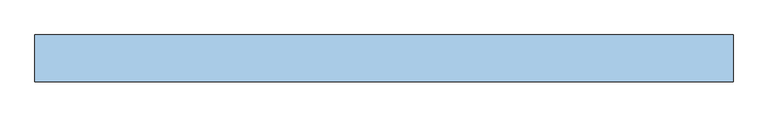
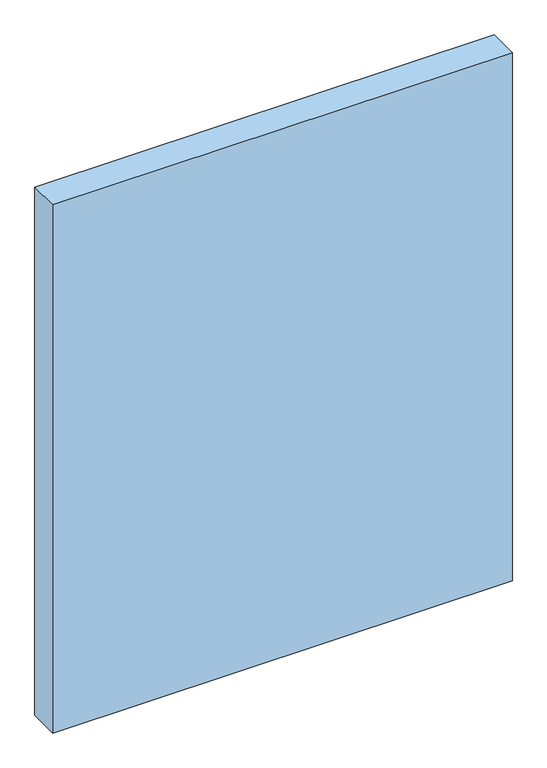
"""IFC4 building model written with IfcOpenShell, lengths in millimetres: window geometry, Dr_Проем-Четверти_окно : ОК."""

from ifc_helpers import new_model, si_unit, frame, origin, place, context, project, spatial, polyline, outline, extrude, source, transform, mapped, element, save


def window_e22b1511(model_context):
    return source(origin(), model_context, "Body", "SweptSolid", [
        extrude(outline(polyline([(1255.0, -50.0), (-985.0, -50.0), (-985.0, 100.0), (1255.0, 100.0), (1255.0, -50.0)])), frame((0.0, 0.0, -60.0), z_axis=(0.0, 0.0, 1.0), x_axis=(1.0, 0.0, 0.0)), (0.0, 0.0, 1.0), 2720.0),
    ])


if __name__ == "__main__":
    model = new_model("IFC4")
    model_context = context("Model", 3, world=origin())
    ifc_project = project(units=[si_unit("LENGTHUNIT", "METRE", prefix="MILLI")], contexts=[model_context])
    site = spatial("IfcSite", under=ifc_project)
    building = spatial("IfcBuilding", under=site)
    placement = place(None, origin())
    window_shape = window_e22b1511(model_context)
    element("IfcWindow", 1, ObjectType="Dr_Проем-Четверти_окно : ОК", at=placement, inside=building, context=model_context, shape_type="MappedRepresentation", body=[
        mapped(window_shape, transform((0.0, 0.0, 0.0), x_axis=(1.0, 0.0, 0.0), y_axis=(0.0, 1.0, 0.0), z_axis=(0.0, 0.0, 1.0))),
    ])
    save(model, "model.ifc")
